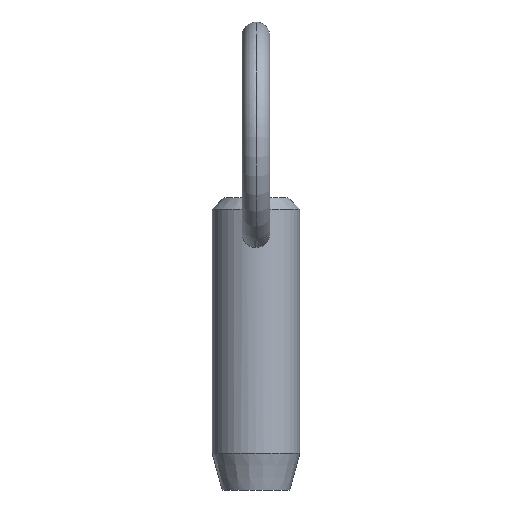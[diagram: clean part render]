
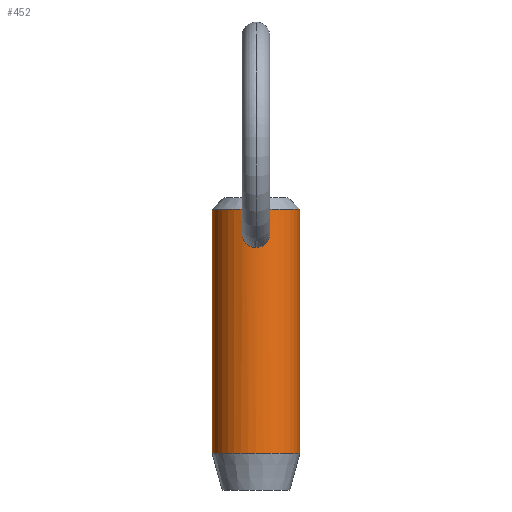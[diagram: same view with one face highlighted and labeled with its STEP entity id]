
A CAD part, front view. The second image highlights one B-rep face of the part: STEP entity #452.
In plain terms, the highlighted cylindrical face has radius 4.76 mm (diameter 9.52 mm), a partial arc.
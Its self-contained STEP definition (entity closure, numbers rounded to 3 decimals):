
#8 = LINE ( 'NONE', #422, #391 ) ;
#12 = AXIS2_PLACEMENT_3D ( 'NONE', #260, #216, #325 ) ;
#26 = CARTESIAN_POINT ( 'NONE',  ( -0.961, -4.663, 13.957 ) ) ;
#29 = CARTESIAN_POINT ( 'NONE',  ( -0.21, -4.76, 13.626 ) ) ;
#30 = CARTESIAN_POINT ( 'NONE',  ( 0.512, -4.733, 13.708 ) ) ;
#32 = CARTESIAN_POINT ( 'NONE',  ( -0.504, -4.734, 16.838 ) ) ;
#35 = CARTESIAN_POINT ( 'NONE',  ( -1.483, -4.524, 14.826 ) ) ;
#36 = CARTESIAN_POINT ( 'NONE',  ( 1.434, -4.539, 15.654 ) ) ;
#48 = CARTESIAN_POINT ( 'NONE',  ( 0.208, -4.757, 13.636 ) ) ;
#56 = CARTESIAN_POINT ( 'NONE',  ( 0., -4.76, 13.626 ) ) ;
#61 = CARTESIAN_POINT ( 'NONE',  ( 0., 0., 12.7 ) ) ;
#71 = CARTESIAN_POINT ( 'NONE',  ( -0.777, -4.7, 16.685 ) ) ;
#73 = CARTESIAN_POINT ( 'NONE',  ( 1.478, -4.525, 15.452 ) ) ;
#85 = CARTESIAN_POINT ( 'NONE',  ( 0., -4.76, 13.626 ) ) ;
#88 = EDGE_CURVE ( 'NONE', #511, #328, #337, .T. ) ;
#101 = DIRECTION ( 'NONE',  ( 1., 0., 0. ) ) ;
#113 = CARTESIAN_POINT ( 'NONE',  ( 0.506, -4.734, 16.837 ) ) ;
#115 = B_SPLINE_CURVE_WITH_KNOTS ( 'NONE', 3,
 ( #195, #476, #198, #521, #113, #189, #307, #478, #385, #423, #238, #273, #36, #73, #516, #340, #151, #269, #345, #120, #158, #431, #265, #421, #472, #30, #446, #48, #319, #85 ),
 .UNSPECIFIED., .F., .F.,
 ( 4, 2, 2, 2, 2, 2, 2, 2, 2, 2, 2, 2, 2, 2, 4 ),
 ( 0.004, 0.005, 0.005, 0.005, 0.006, 0.006, 0.007, 0.007, 0.007, 0.007, 0.008, 0.008, 0.009, 0.009, 0.009 ),
 .UNSPECIFIED. ) ;
#116 = CARTESIAN_POINT ( 'NONE',  ( -0.416, -4.746, 13.667 ) ) ;
#119 = ORIENTED_EDGE ( 'NONE', *, *, #438, .F. ) ;
#120 = CARTESIAN_POINT ( 'NONE',  ( 1.385, -4.554, 14.532 ) ) ;
#123 = ORIENTED_EDGE ( 'NONE', *, *, #469, .T. ) ;
#124 = CARTESIAN_POINT ( 'NONE',  ( 4.76, 0., -8.7 ) ) ;
#129 = ORIENTED_EDGE ( 'NONE', *, *, #432, .T. ) ;
#147 = CARTESIAN_POINT ( 'NONE',  ( 0., 0., 17.75 ) ) ;
#149 = CARTESIAN_POINT ( 'NONE',  ( 4.76, 0., 12.7 ) ) ;
#151 = CARTESIAN_POINT ( 'NONE',  ( 1.499, -4.518, 15.037 ) ) ;
#153 = CARTESIAN_POINT ( 'NONE',  ( -0.208, -4.757, 16.934 ) ) ;
#155 = CARTESIAN_POINT ( 'NONE',  ( -1.441, -4.537, 15.657 ) ) ;
#158 = CARTESIAN_POINT ( 'NONE',  ( 1.344, -4.567, 14.439 ) ) ;
#165 = EDGE_CURVE ( 'NONE', #367, #493, #8, .T. ) ;
#179 = CIRCLE ( 'NONE', #12, 4.76 ) ;
#182 = DIRECTION ( 'NONE',  ( 0., 0., -1. ) ) ;
#189 = CARTESIAN_POINT ( 'NONE',  ( 0.687, -4.711, 16.735 ) ) ;
#193 = CARTESIAN_POINT ( 'NONE',  ( -0.932, -4.67, 16.545 ) ) ;
#195 = CARTESIAN_POINT ( 'NONE',  ( 0., -4.76, 16.948 ) ) ;
#197 = CARTESIAN_POINT ( 'NONE',  ( -1.247, -4.596, 14.252 ) ) ;
#198 = CARTESIAN_POINT ( 'NONE',  ( 0.209, -4.756, 16.934 ) ) ;
#200 = CARTESIAN_POINT ( 'NONE',  ( -4.76, 0., 17.75 ) ) ;
#209 = LINE ( 'NONE', #149, #399 ) ;
#214 = VERTEX_POINT ( 'NONE', #124 ) ;
#216 = DIRECTION ( 'NONE',  ( 0., 0., 1. ) ) ;
#220 = CARTESIAN_POINT ( 'NONE',  ( -4.76, 0., -8.7 ) ) ;
#222 = CYLINDRICAL_SURFACE ( 'NONE', #428, 4.76 ) ;
#228 = ORIENTED_EDGE ( 'NONE', *, *, #494, .T. ) ;
#238 = CARTESIAN_POINT ( 'NONE',  ( 1.293, -4.582, 16.042 ) ) ;
#239 = CARTESIAN_POINT ( 'NONE',  ( 0., -4.76, 16.948 ) ) ;
#245 = ORIENTED_EDGE ( 'NONE', *, *, #88, .T. ) ;
#260 = CARTESIAN_POINT ( 'NONE',  ( 0., 0., -8.7 ) ) ;
#265 = CARTESIAN_POINT ( 'NONE',  ( 1.178, -4.613, 14.176 ) ) ;
#267 = CARTESIAN_POINT ( 'NONE',  ( -1.353, -4.564, 14.435 ) ) ;
#269 = CARTESIAN_POINT ( 'NONE',  ( 1.473, -4.526, 14.831 ) ) ;
#270 = CARTESIAN_POINT ( 'NONE',  ( -0.703, -4.709, 13.789 ) ) ;
#271 = CARTESIAN_POINT ( 'NONE',  ( -0.103, -4.76, 16.948 ) ) ;
#273 = CARTESIAN_POINT ( 'NONE',  ( 1.404, -4.548, 15.753 ) ) ;
#289 = VERTEX_POINT ( 'NONE', #351 ) ;
#296 = FACE_BOUND ( 'NONE', #395, .T. ) ;
#300 = CARTESIAN_POINT ( 'NONE',  ( -1.039, -4.646, 14.026 ) ) ;
#303 = CARTESIAN_POINT ( 'NONE',  ( -0.409, -4.743, 16.878 ) ) ;
#307 = CARTESIAN_POINT ( 'NONE',  ( 0.77, -4.698, 16.675 ) ) ;
#311 = AXIS2_PLACEMENT_3D ( 'NONE', #147, #411, #101 ) ;
#319 = CARTESIAN_POINT ( 'NONE',  ( 0.105, -4.76, 13.626 ) ) ;
#325 = DIRECTION ( 'NONE',  ( -1., 0., 0. ) ) ;
#328 = VERTEX_POINT ( 'NONE', #523 ) ;
#337 = B_SPLINE_CURVE_WITH_KNOTS ( 'NONE', 3,
 ( #376, #29, #116, #270, #430, #26, #300, #197, #267, #35, #480, #380, #155, #379, #426, #193, #71, #32, #303, #153, #271, #239 ),
 .UNSPECIFIED., .F., .F.,
 ( 4, 2, 2, 2, 2, 2, 2, 2, 2, 2, 4 ),
 ( 0.009, 0.01, 0.01, 0.011, 0.011, 0.012, 0.012, 0.013, 0.014, 0.014, 0.014 ),
 .UNSPECIFIED. ) ;
#340 = CARTESIAN_POINT ( 'NONE',  ( 1.503, -4.517, 15.14 ) ) ;
#345 = CARTESIAN_POINT ( 'NONE',  ( 1.45, -4.534, 14.728 ) ) ;
#346 = ORIENTED_EDGE ( 'NONE', *, *, #165, .T. ) ;
#351 = CARTESIAN_POINT ( 'NONE',  ( 4.76, 0., 17.75 ) ) ;
#359 = FACE_OUTER_BOUND ( 'NONE', #503, .T. ) ;
#367 = VERTEX_POINT ( 'NONE', #200 ) ;
#368 = DIRECTION ( 'NONE',  ( -1., 0., 0. ) ) ;
#376 = CARTESIAN_POINT ( 'NONE',  ( 0., -4.76, 13.626 ) ) ;
#379 = CARTESIAN_POINT ( 'NONE',  ( -1.292, -4.582, 16.045 ) ) ;
#380 = CARTESIAN_POINT ( 'NONE',  ( -1.487, -4.522, 15.453 ) ) ;
#385 = CARTESIAN_POINT ( 'NONE',  ( 0.997, -4.655, 16.464 ) ) ;
#391 = VECTOR ( 'NONE', #515, 1000. ) ;
#395 = EDGE_LOOP ( 'NONE', ( #123, #245 ) ) ;
#399 = VECTOR ( 'NONE', #182, 1000. ) ;
#411 = DIRECTION ( 'NONE',  ( 0., 0., -1. ) ) ;
#421 = CARTESIAN_POINT ( 'NONE',  ( 0.97, -4.662, 13.95 ) ) ;
#422 = CARTESIAN_POINT ( 'NONE',  ( -4.76, 0., 12.7 ) ) ;
#423 = CARTESIAN_POINT ( 'NONE',  ( 1.19, -4.611, 16.224 ) ) ;
#426 = CARTESIAN_POINT ( 'NONE',  ( -1.19, -4.611, 16.224 ) ) ;
#428 = AXIS2_PLACEMENT_3D ( 'NONE', #61, #459, #368 ) ;
#430 = CARTESIAN_POINT ( 'NONE',  ( -0.793, -4.694, 13.839 ) ) ;
#431 = CARTESIAN_POINT ( 'NONE',  ( 1.24, -4.596, 14.26 ) ) ;
#432 = EDGE_CURVE ( 'NONE', #289, #367, #492, .T. ) ;
#438 = EDGE_CURVE ( 'NONE', #289, #214, #209, .T. ) ;
#446 = CARTESIAN_POINT ( 'NONE',  ( 0.411, -4.743, 13.677 ) ) ;
#452 = ADVANCED_FACE ( 'NONE', ( #359, #296 ), #222, .T. ) ;
#459 = DIRECTION ( 'NONE',  ( 0., 0., -1. ) ) ;
#469 = EDGE_CURVE ( 'NONE', #328, #511, #115, .T. ) ;
#472 = CARTESIAN_POINT ( 'NONE',  ( 0.797, -4.697, 13.829 ) ) ;
#476 = CARTESIAN_POINT ( 'NONE',  ( 0.104, -4.76, 16.948 ) ) ;
#478 = CARTESIAN_POINT ( 'NONE',  ( 0.925, -4.67, 16.539 ) ) ;
#480 = CARTESIAN_POINT ( 'NONE',  ( -1.508, -4.515, 15.037 ) ) ;
#492 = CIRCLE ( 'NONE', #311, 4.76 ) ;
#493 = VERTEX_POINT ( 'NONE', #220 ) ;
#494 = EDGE_CURVE ( 'NONE', #493, #214, #179, .T. ) ;
#503 = EDGE_LOOP ( 'NONE', ( #119, #129, #346, #228 ) ) ;
#511 = VERTEX_POINT ( 'NONE', #56 ) ;
#515 = DIRECTION ( 'NONE',  ( 0., 0., -1. ) ) ;
#516 = CARTESIAN_POINT ( 'NONE',  ( 1.492, -4.52, 15.348 ) ) ;
#521 = CARTESIAN_POINT ( 'NONE',  ( 0.409, -4.743, 16.878 ) ) ;
#523 = CARTESIAN_POINT ( 'NONE',  ( 0., -4.76, 16.948 ) ) ;
